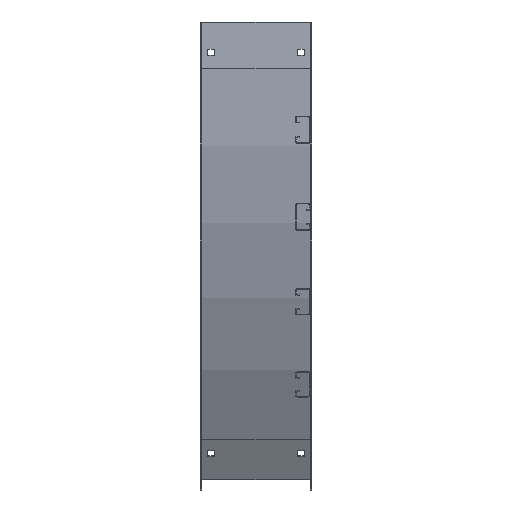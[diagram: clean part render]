
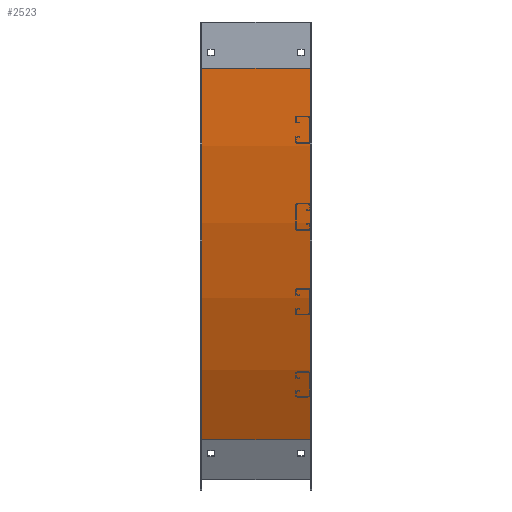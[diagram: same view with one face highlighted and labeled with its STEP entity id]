
A CAD part, left-side view. The second image highlights one B-rep face of the part: STEP entity #2523.
In plain terms, the highlighted cylindrical face has radius 1224.03 mm (diameter 2448.05 mm), a partial arc.
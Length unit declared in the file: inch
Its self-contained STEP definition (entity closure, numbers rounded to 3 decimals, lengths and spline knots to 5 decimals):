
#1560=CARTESIAN_POINT('',(-7.13,-48.09,3.));
#1561=DIRECTION('',(1.,0.,0.));
#1562=DIRECTION('',(0.,1.,0.));
#1563=AXIS2_PLACEMENT_3D('',#1560,#1561,#1562);
#1753=DIRECTION('',(-1.,0.,0.));
#1754=VECTOR('',#1753,7.02);
#1755=CARTESIAN_POINT('',(-0.11,-6.35624,27.095));
#1756=LINE('',#1755,#1754);
#1793=DIRECTION('',(-1.,0.,0.));
#1794=VECTOR('',#1793,7.02);
#1795=CARTESIAN_POINT('',(-0.11,0.1,3.));
#1796=LINE('',#1795,#1794);
#1797=CARTESIAN_POINT('',(-0.11,-48.09,3.));
#1798=DIRECTION('',(1.,0.,0.));
#1799=DIRECTION('',(0.,1.,0.));
#1800=AXIS2_PLACEMENT_3D('',#1797,#1798,#1799);
#1924=CARTESIAN_POINT('',(-0.11,0.1,3.));
#1925=CARTESIAN_POINT('',(-7.13,0.1,3.));
#1926=VERTEX_POINT('',#1924);
#1927=VERTEX_POINT('',#1925);
#1948=CARTESIAN_POINT('',(-0.11,-6.35624,27.095));
#1949=CARTESIAN_POINT('',(-7.13,-6.35624,27.095));
#1950=VERTEX_POINT('',#1948);
#1951=VERTEX_POINT('',#1949);
#2512=CARTESIAN_POINT('',(-1.,-48.09,3.));
#2513=DIRECTION('',(1.,0.,0.));
#2514=DIRECTION('',(0.,-1.,0.));
#2515=AXIS2_PLACEMENT_3D('',#2512,#2513,#2514);
#2516=CYLINDRICAL_SURFACE('',#2515,48.19);
#2517=ORIENTED_EDGE('',*,*,#2297,.F.);
#2518=ORIENTED_EDGE('',*,*,#2338,.T.);
#2519=ORIENTED_EDGE('',*,*,#2485,.T.);
#2520=ORIENTED_EDGE('',*,*,#2275,.F.);
#2521=EDGE_LOOP('',(#2517,#2518,#2519,#2520));
#2522=FACE_OUTER_BOUND('',#2521,.F.);
#2523=ADVANCED_FACE('',(#2522),#2516,.T.);
#1564=CIRCLE('',#1563,48.19);
#1801=CIRCLE('',#1800,48.19);
#2275=EDGE_CURVE('',#1927,#1951,#1564,.T.);
#2297=EDGE_CURVE('',#1926,#1927,#1796,.T.);
#2338=EDGE_CURVE('',#1926,#1950,#1801,.T.);
#2485=EDGE_CURVE('',#1950,#1951,#1756,.T.);
